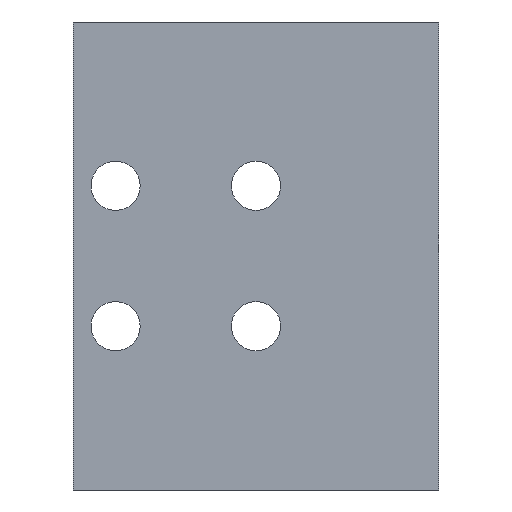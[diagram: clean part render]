
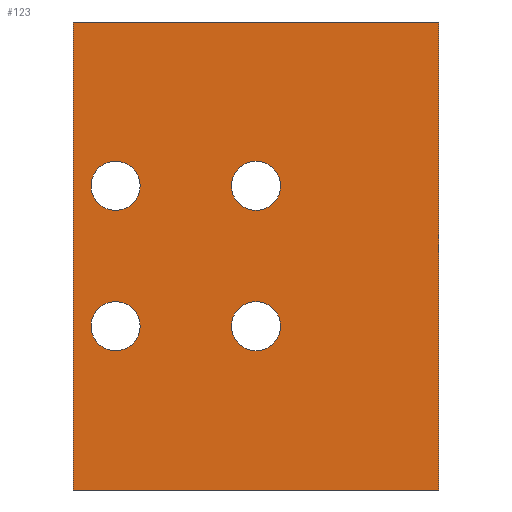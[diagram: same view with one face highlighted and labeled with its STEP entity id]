
A CAD part, front view. The second image highlights one B-rep face of the part: STEP entity #123.
In plain terms, the highlighted planar face has unit normal (0, -1, 0).
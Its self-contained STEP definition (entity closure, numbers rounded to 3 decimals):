
#99 = VERTEX_POINT( '', #265 );
#103 = EDGE_CURVE( '', #129, #245, #269, .T. );
#109 = VERTEX_POINT( '', #281 );
#113 = EDGE_CURVE( '', #243, #129, #285, .T. );
#123 = ADVANCED_FACE( '', ( #296, #297, #298, #299, #300 ), #301, .T. );
#127 = VERTEX_POINT( '', #305 );
#129 = VERTEX_POINT( '', #307 );
#135 = EDGE_CURVE( '', #99, #245, #313, .T. );
#151 = EDGE_CURVE( '', #215, #181, #331, .T. );
#155 = VERTEX_POINT( '', #335 );
#163 = VERTEX_POINT( '', #345 );
#165 = VERTEX_POINT( '', #347 );
#181 = VERTEX_POINT( '', #365 );
#183 = EDGE_CURVE( '', #165, #163, #367, .T. );
#185 = EDGE_CURVE( '', #155, #127, #369, .T. );
#187 = EDGE_CURVE( '', #163, #165, #371, .T. );
#195 = VERTEX_POINT( '', #379 );
#197 = EDGE_CURVE( '', #243, #99, #381, .T. );
#205 = EDGE_CURVE( '', #127, #155, #389, .T. );
#215 = VERTEX_POINT( '', #399 );
#229 = EDGE_CURVE( '', #109, #195, #416, .T. );
#231 = EDGE_CURVE( '', #181, #215, #418, .T. );
#243 = VERTEX_POINT( '', #431 );
#245 = VERTEX_POINT( '', #433 );
#247 = EDGE_CURVE( '', #195, #109, #435, .T. );
#265 = CARTESIAN_POINT( '', ( 39., 0., -50. ) );
#269 = LINE( '', #450, #451 );
#281 = CARTESIAN_POINT( '', ( 5.25, 0., 15. ) );
#285 = LINE( '', #468, #469 );
#296 = FACE_BOUND( '', #484, .T. );
#297 = FACE_BOUND( '', #485, .T. );
#298 = FACE_BOUND( '', #486, .T. );
#299 = FACE_BOUND( '', #487, .T. );
#300 = FACE_OUTER_BOUND( '', #488, .T. );
#301 = PLANE( '', #489 );
#305 = CARTESIAN_POINT( '', ( 5.25, 0., -15. ) );
#307 = CARTESIAN_POINT( '', ( -39., 0., 50. ) );
#313 = LINE( '', #504, #505 );
#331 = CIRCLE( '', #531, 5.25 );
#335 = CARTESIAN_POINT( '', ( -5.25, 0., -15. ) );
#345 = CARTESIAN_POINT( '', ( -35.25, 0., -15. ) );
#347 = CARTESIAN_POINT( '', ( -24.75, 0., -15. ) );
#365 = CARTESIAN_POINT( '', ( -35.25, 0., 15. ) );
#367 = CIRCLE( '', #577, 5.25 );
#369 = CIRCLE( '', #580, 5.25 );
#371 = CIRCLE( '', #583, 5.25 );
#379 = CARTESIAN_POINT( '', ( -5.25, 0., 15. ) );
#381 = LINE( '', #598, #599 );
#389 = CIRCLE( '', #612, 5.25 );
#399 = CARTESIAN_POINT( '', ( -24.75, 0., 15. ) );
#416 = CIRCLE( '', #643, 5.25 );
#418 = CIRCLE( '', #646, 5.25 );
#431 = CARTESIAN_POINT( '', ( 39., 0., 50. ) );
#433 = CARTESIAN_POINT( '', ( -39., 0., -50. ) );
#435 = CIRCLE( '', #668, 5.25 );
#450 = CARTESIAN_POINT( '', ( -39., 0., 50. ) );
#451 = VECTOR( '', #671, 1. );
#468 = CARTESIAN_POINT( '', ( 39., 0., 50. ) );
#469 = VECTOR( '', #696, 1. );
#484 = EDGE_LOOP( '', ( #708, #709 ) );
#485 = EDGE_LOOP( '', ( #710, #711 ) );
#486 = EDGE_LOOP( '', ( #712, #713 ) );
#487 = EDGE_LOOP( '', ( #714, #715 ) );
#488 = EDGE_LOOP( '', ( #716, #717, #718, #719 ) );
#489 = AXIS2_PLACEMENT_3D( '', #720, #721, #722 );
#504 = CARTESIAN_POINT( '', ( 39., 0., -50. ) );
#505 = VECTOR( '', #724, 1. );
#531 = AXIS2_PLACEMENT_3D( '', #752, #753, #754 );
#577 = AXIS2_PLACEMENT_3D( '', #794, #795, #796 );
#580 = AXIS2_PLACEMENT_3D( '', #797, #798, #799 );
#583 = AXIS2_PLACEMENT_3D( '', #800, #801, #802 );
#598 = CARTESIAN_POINT( '', ( 39., 0., 50. ) );
#599 = VECTOR( '', #805, 1. );
#612 = AXIS2_PLACEMENT_3D( '', #813, #814, #815 );
#643 = AXIS2_PLACEMENT_3D( '', #848, #849, #850 );
#646 = AXIS2_PLACEMENT_3D( '', #851, #852, #853 );
#668 = AXIS2_PLACEMENT_3D( '', #864, #865, #866 );
#671 = DIRECTION( '', ( 0., 0., -1. ) );
#696 = DIRECTION( '', ( -1., 0., 0. ) );
#708 = ORIENTED_EDGE( '', *, *, #229, .T. );
#709 = ORIENTED_EDGE( '', *, *, #247, .T. );
#710 = ORIENTED_EDGE( '', *, *, #151, .T. );
#711 = ORIENTED_EDGE( '', *, *, #231, .T. );
#712 = ORIENTED_EDGE( '', *, *, #205, .T. );
#713 = ORIENTED_EDGE( '', *, *, #185, .T. );
#714 = ORIENTED_EDGE( '', *, *, #183, .T. );
#715 = ORIENTED_EDGE( '', *, *, #187, .T. );
#716 = ORIENTED_EDGE( '', *, *, #103, .T. );
#717 = ORIENTED_EDGE( '', *, *, #135, .F. );
#718 = ORIENTED_EDGE( '', *, *, #197, .F. );
#719 = ORIENTED_EDGE( '', *, *, #113, .T. );
#720 = CARTESIAN_POINT( '', ( 39., 0., 50. ) );
#721 = DIRECTION( '', ( 0., -1., 0. ) );
#722 = DIRECTION( '', ( 0., 0., 1. ) );
#724 = DIRECTION( '', ( -1., 0., 0. ) );
#752 = CARTESIAN_POINT( '', ( -30., 0., 15. ) );
#753 = DIRECTION( '', ( 0., 1., 0. ) );
#754 = DIRECTION( '', ( -1., 0., 0. ) );
#794 = CARTESIAN_POINT( '', ( -30., 0., -15. ) );
#795 = DIRECTION( '', ( 0., 1., 0. ) );
#796 = DIRECTION( '', ( -1., 0., 0. ) );
#797 = CARTESIAN_POINT( '', ( 0., 0., -15. ) );
#798 = DIRECTION( '', ( 0., 1., 0. ) );
#799 = DIRECTION( '', ( -1., 0., 0. ) );
#800 = CARTESIAN_POINT( '', ( -30., 0., -15. ) );
#801 = DIRECTION( '', ( 0., 1., 0. ) );
#802 = DIRECTION( '', ( -1., 0., 0. ) );
#805 = DIRECTION( '', ( 0., 0., -1. ) );
#813 = CARTESIAN_POINT( '', ( 0., 0., -15. ) );
#814 = DIRECTION( '', ( 0., 1., 0. ) );
#815 = DIRECTION( '', ( -1., 0., 0. ) );
#848 = CARTESIAN_POINT( '', ( 0., 0., 15. ) );
#849 = DIRECTION( '', ( 0., 1., 0. ) );
#850 = DIRECTION( '', ( -1., 0., 0. ) );
#851 = CARTESIAN_POINT( '', ( -30., 0., 15. ) );
#852 = DIRECTION( '', ( 0., 1., 0. ) );
#853 = DIRECTION( '', ( -1., 0., 0. ) );
#864 = CARTESIAN_POINT( '', ( 0., 0., 15. ) );
#865 = DIRECTION( '', ( 0., 1., 0. ) );
#866 = DIRECTION( '', ( -1., 0., 0. ) );
